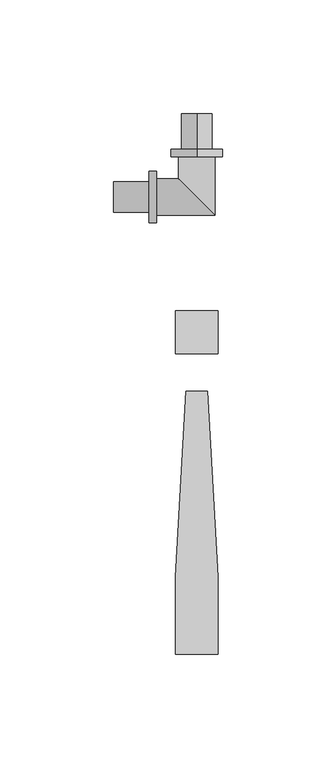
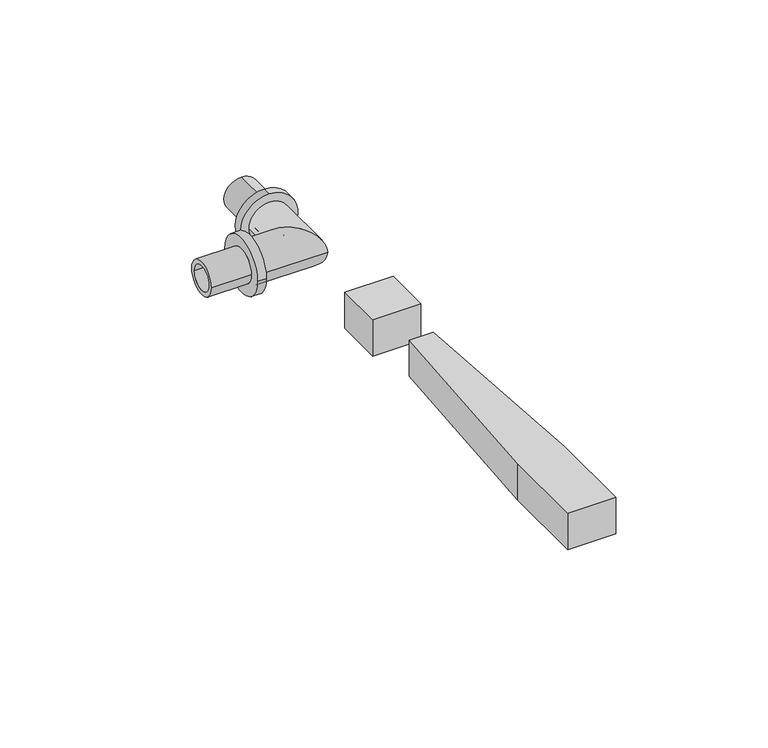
"""IFC4 building model written with IfcOpenShell, lengths in millimetres: pipe fitting geometry, RAUTITAN_Corner_LX : RTI LX/PX C DN."""

from ifc_helpers import new_model, si_unit, frame, origin, origin_with_axes, place, context, project, spatial, polyline, circle_curve, ellipse_curve, outline, extrude, source, transform, mapped, element, save
from ifc_brep_helpers import plane_surface, cylinder_surface, revolved_surface, advanced_brep


def pipe_fitting_bdbaf0cc(model_context):
    return source(origin(), model_context, "Body", "SolidModel", [
        extrude(outline(polyline([(4.7088895, -85.3166715), (9.4177791, -166.6553807), (9.4177791, -200.6844652), (-9.4177791, -200.6844652), (-9.4177791, -166.6553807), (-4.7088895, -85.3166715), (4.7088895, -85.3166715)])), origin_with_axes(), (0.0, 0.0, 1.0), 15.0),
        extrude(outline(polyline([(9.4177791, -50.0), (9.4177791, -68.8355582), (-9.4177791, -68.8355582), (-9.4177791, -50.0), (9.4177791, -50.0)])), origin_with_axes(), (0.0, 0.0, 1.0), 15.0),
        advanced_brep(
        [(0.0, 21.0, 11.25), (0.0, 21.0, -11.25), (0.0, 17.7, -11.25), (0.0, 17.7, 11.25), (0.0, 36.5, 6.75), (0.0, 36.5, -6.75), (0.0, 21.0, -6.75), (0.0, 21.0, 6.75), (0.0, 17.7, 4.95), (0.0, 17.7, -4.95), (0.0, 36.5, -4.95), (0.0, 36.5, 4.95)],
        [
            (0, 1, circle_curve(frame((0.0, 21.0, 0.0), z_axis=(0.0, -1.0, 0.0), x_axis=(0.0, 0.0, -1.0)), 11.25)),
            (1, 2),
            (2, 3, circle_curve(frame((0.0, 17.7, 0.0), z_axis=(0.0, 1.0, 0.0), x_axis=(0.0, 0.0, -1.0)), 11.25)),
            (3, 0),
            (4, 5, circle_curve(frame((0.0, 36.5, 0.0), z_axis=(0.0, -1.0, 0.0), x_axis=(0.0, 0.0, -1.0)), 6.75)),
            (5, 6),
            (6, 7, circle_curve(frame((0.0, 21.0, 0.0), z_axis=(0.0, 1.0, 0.0), x_axis=(0.0, 0.0, -1.0)), 6.75)),
            (7, 4),
            (8, 9, circle_curve(frame((0.0, 17.7, 0.0), z_axis=(0.0, -1.0, 0.0), x_axis=(0.0, 0.0, -1.0)), 4.95)),
            (9, 10),
            (10, 11, circle_curve(frame((0.0, 36.5, 0.0), z_axis=(0.0, 1.0, 0.0), x_axis=(0.0, 0.0, -1.0)), 4.95)),
            (11, 8),
            (1, 0, circle_curve(frame((0.0, 21.0, 0.0), z_axis=(0.0, -1.0, 0.0), x_axis=(0.0, 0.0, 1.0)), 11.25)),
            (3, 2, circle_curve(frame((0.0, 17.7, 0.0), z_axis=(0.0, 1.0, 0.0), x_axis=(0.0, 0.0, 1.0)), 11.25)),
            (6, 7, circle_curve(frame((0.0, 21.0, 0.0), z_axis=(0.0, -1.0, 0.0), x_axis=(0.0, 0.0, 1.0)), 6.75)),
            (5, 4, circle_curve(frame((0.0, 36.5, 0.0), z_axis=(0.0, -1.0, 0.0), x_axis=(0.0, 0.0, 1.0)), 6.75)),
            (10, 11, circle_curve(frame((0.0, 36.5, 0.0), z_axis=(0.0, -1.0, 0.0), x_axis=(0.0, 0.0, 1.0)), 4.95)),
            (9, 8, circle_curve(frame((0.0, 17.7, 0.0), z_axis=(0.0, -1.0, 0.0), x_axis=(0.0, 0.0, 1.0)), 4.95)),
        ],
        [
            cylinder_surface(frame((0.0, 17.7, 0.0), z_axis=(0.0, 1.0, 0.0), x_axis=(0.0, 0.0, -1.0)), 11.25),
            cylinder_surface(frame((0.0, 17.7, 0.0), z_axis=(0.0, 1.0, 0.0), x_axis=(0.0, 0.0, -1.0)), 6.75),
            revolved_surface(polyline([(0.0, 36.5, -4.95), (0.0, 17.7, -4.95)]), (0.0, 17.7, 0.0), (0.0, 1.0, 0.0)),
            cylinder_surface(frame((0.0, 17.7, 0.0), z_axis=(0.0, 1.0, 0.0), x_axis=(0.0, 0.0, 1.0)), 11.25),
            plane_surface(frame((0.0, 21.0, 0.0), z_axis=(0.0, 1.0, 0.0), x_axis=(0.0, 0.0, 1.0))),
            cylinder_surface(frame((0.0, 17.7, 0.0), z_axis=(0.0, 1.0, 0.0), x_axis=(0.0, 0.0, 1.0)), 6.75),
            plane_surface(frame((0.0, 36.5, 0.0), z_axis=(0.0, 1.0, 0.0), x_axis=(0.0, 0.0, 1.0))),
            revolved_surface(polyline([(0.0, 36.5, 4.95), (0.0, 17.7, 4.95)]), (0.0, 17.7, 0.0), (0.0, 1.0, 0.0)),
            plane_surface(frame((0.0, 17.7, 0.0), z_axis=(0.0, -1.0, 0.0), x_axis=(0.0, 0.0, 1.0))),
        ],
        [
            (0, [[1, 2, 3, 4]]),
            (1, [[5, 6, 7, 8]]),
            (2, [[9, 10, 11, 12]]),
            (3, [[13, -4, 14, -2]]),
            (4, [[-13, -1], [15, -7]]),
            (5, [[16, -8, -15, -6]]),
            (6, [[-16, -5], [17, -11]]),
            (7, [[18, -12, -17, -10]]),
            (8, [[-14, -3], [-18, -9]]),
        ],
    ),
        advanced_brep(
        [(-21.0, -11.25, 0.0), (-21.0, 11.25, 0.0), (-17.7, 11.25, 0.0), (-17.7, -11.25, 0.0), (-36.5, -6.75, 0.0), (-36.5, 6.75, 0.0), (-21.0, 6.75, 0.0), (-21.0, -6.75, 0.0), (-17.7, -4.95, 0.0), (-17.7, 4.95, 0.0), (-36.5, 4.95, 0.0), (-36.5, -4.95, 0.0)],
        [
            (0, 1, circle_curve(frame((-21.0, 0.0, 0.0), z_axis=(1.0, 0.0, 0.0), x_axis=(0.0, 1.0, 0.0)), 11.25)),
            (1, 2),
            (2, 3, circle_curve(frame((-17.7, 0.0, 0.0), z_axis=(-1.0, 0.0, 0.0), x_axis=(0.0, 1.0, 0.0)), 11.25)),
            (3, 0),
            (4, 5, circle_curve(frame((-36.5, 0.0, 0.0), z_axis=(1.0, 0.0, 0.0), x_axis=(0.0, 1.0, 0.0)), 6.75)),
            (5, 6),
            (6, 7, circle_curve(frame((-21.0, 0.0, 0.0), z_axis=(-1.0, 0.0, 0.0), x_axis=(0.0, 1.0, 0.0)), 6.75)),
            (7, 4),
            (8, 9, circle_curve(frame((-17.7, 0.0, 0.0), z_axis=(1.0, 0.0, 0.0), x_axis=(0.0, 1.0, 0.0)), 4.95)),
            (9, 10),
            (10, 11, circle_curve(frame((-36.5, 0.0, 0.0), z_axis=(-1.0, 0.0, 0.0), x_axis=(0.0, 1.0, 0.0)), 4.95)),
            (11, 8),
            (1, 0, circle_curve(frame((-21.0, 0.0, 0.0), z_axis=(1.0, 0.0, 0.0), x_axis=(0.0, -1.0, 0.0)), 11.25)),
            (3, 2, circle_curve(frame((-17.7, 0.0, 0.0), z_axis=(-1.0, 0.0, 0.0), x_axis=(0.0, -1.0, 0.0)), 11.25)),
            (6, 7, circle_curve(frame((-21.0, 0.0, 0.0), z_axis=(1.0, 0.0, 0.0), x_axis=(0.0, -1.0, 0.0)), 6.75)),
            (5, 4, circle_curve(frame((-36.5, 0.0, 0.0), z_axis=(1.0, 0.0, 0.0), x_axis=(0.0, -1.0, 0.0)), 6.75)),
            (10, 11, circle_curve(frame((-36.5, 0.0, 0.0), z_axis=(1.0, 0.0, 0.0), x_axis=(0.0, -1.0, 0.0)), 4.95)),
            (9, 8, circle_curve(frame((-17.7, 0.0, 0.0), z_axis=(1.0, 0.0, 0.0), x_axis=(0.0, -1.0, 0.0)), 4.95)),
        ],
        [
            cylinder_surface(frame((-17.7, 0.0, 0.0), z_axis=(-1.0, 0.0, 0.0), x_axis=(0.0, 1.0, 0.0)), 11.25),
            cylinder_surface(frame((-17.7, 0.0, 0.0), z_axis=(-1.0, 0.0, 0.0), x_axis=(0.0, 1.0, 0.0)), 6.75),
            revolved_surface(polyline([(-36.5, 4.95, 0.0), (-17.7, 4.95, 0.0)]), (-17.7, 0.0, 0.0), (-1.0, 0.0, 0.0)),
            cylinder_surface(frame((-17.7, 0.0, 0.0), z_axis=(-1.0, 0.0, 0.0), x_axis=(0.0, -1.0, 0.0)), 11.25),
            plane_surface(frame((-21.0, 0.0, 0.0), z_axis=(-1.0, 0.0, 0.0), x_axis=(0.0, -1.0, 0.0))),
            cylinder_surface(frame((-17.7, 0.0, 0.0), z_axis=(-1.0, 0.0, 0.0), x_axis=(0.0, -1.0, 0.0)), 6.75),
            plane_surface(frame((-36.5, 0.0, 0.0), z_axis=(-1.0, 0.0, 0.0), x_axis=(0.0, -1.0, 0.0))),
            revolved_surface(polyline([(-36.5, -4.95, 0.0), (-17.7, -4.95, 0.0)]), (-17.7, 0.0, 0.0), (-1.0, 0.0, 0.0)),
            plane_surface(frame((-17.7, 0.0, 0.0), z_axis=(1.0, 0.0, 0.0), x_axis=(0.0, -1.0, 0.0))),
        ],
        [
            (0, [[1, 2, 3, 4]]),
            (1, [[5, 6, 7, 8]]),
            (2, [[9, 10, 11, 12]]),
            (3, [[13, -4, 14, -2]]),
            (4, [[-13, -1], [15, -7]]),
            (5, [[16, -8, -15, -6]]),
            (6, [[-16, -5], [17, -11]]),
            (7, [[18, -12, -17, -10]]),
            (8, [[-14, -3], [-18, -9]]),
        ],
    ),
        advanced_brep(
        [(-17.7, -8.05, 0.0), (-17.7, 8.05, 0.0), (-17.7, -4.95, 0.0), (-17.7, 4.95, 0.0), (-4.95, 4.95, 0.0), (4.95, -4.95, 0.0), (8.05, 17.7, 0.0), (-8.05, 17.7, 0.0), (4.95, 17.7, 0.0), (-4.95, 17.7, 0.0), (8.05, -8.05, 0.0), (-8.05, 8.05, 0.0)],
        [
            (0, 1, circle_curve(frame((-17.7, 0.0, 0.0), z_axis=(-1.0, 0.0, 0.0), x_axis=(0.0, 1.0, 0.0)), 8.05)),
            (1, 0, circle_curve(frame((-17.7, 0.0, 0.0), z_axis=(-1.0, 0.0, 0.0), x_axis=(0.0, 1.0, 0.0)), 8.05)),
            (2, 3, circle_curve(frame((-17.7, 0.0, 0.0), z_axis=(1.0, 0.0, 0.0), x_axis=(0.0, 1.0, 0.0)), 4.95)),
            (3, 2, circle_curve(frame((-17.7, 0.0, 0.0), z_axis=(1.0, 0.0, 0.0), x_axis=(0.0, 1.0, 0.0)), 4.95)),
            (3, 4),
            (4, 5, ellipse_curve(frame((0.0, 0.0, 0.0), z_axis=(0.707106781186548, 0.7071067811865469, 0.0), x_axis=(0.7071067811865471, -0.7071067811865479, 0.0)), 7.0003571, 4.95)),
            (5, 2),
            (5, 4, ellipse_curve(frame((0.0, 0.0, 0.0), z_axis=(0.707106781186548, 0.7071067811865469, 0.0), x_axis=(0.7071067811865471, -0.7071067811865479, 0.0)), 7.0003571, 4.95)),
            (6, 7, circle_curve(frame((0.0, 17.7, 0.0), z_axis=(0.0, 1.0, 0.0), x_axis=(-1.0, 0.0, 0.0)), 8.05)),
            (7, 6, circle_curve(frame((0.0, 17.7, 0.0), z_axis=(0.0, 1.0, 0.0), x_axis=(-1.0, 0.0, 0.0)), 8.05)),
            (8, 9, circle_curve(frame((0.0, 17.7, 0.0), z_axis=(0.0, -1.0, 0.0), x_axis=(-1.0, 0.0, 0.0)), 4.95)),
            (9, 8, circle_curve(frame((0.0, 17.7, 0.0), z_axis=(0.0, -1.0, 0.0), x_axis=(-1.0, 0.0, 0.0)), 4.95)),
            (4, 9),
            (8, 5),
            (0, 10),
            (10, 11, ellipse_curve(frame((0.0, 0.0, 0.0), z_axis=(-0.707106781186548, -0.7071067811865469, 0.0), x_axis=(-0.7071067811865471, 0.7071067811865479, 0.0)), 11.3844192, 8.05)),
            (11, 1),
            (11, 10, ellipse_curve(frame((0.0, 0.0, 0.0), z_axis=(-0.707106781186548, -0.7071067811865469, 0.0), x_axis=(-0.7071067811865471, 0.7071067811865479, 0.0)), 11.3844192, 8.05)),
            (10, 6),
            (7, 11),
        ],
        [
            plane_surface(frame((-17.7, 0.0, 0.0), z_axis=(-1.0, 0.0, 0.0), x_axis=(0.0, 0.0, 1.0))),
            revolved_surface(polyline([(4.949999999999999, 4.95, 0.0), (-17.7, 4.95, 0.0)]), (-17.7, 0.0, 0.0), (1.0, 0.0, 0.0)),
            plane_surface(frame((0.0, 17.7, 0.0), z_axis=(0.0, 1.0, 0.0), x_axis=(0.0, 0.0, 1.0))),
            revolved_surface(polyline([(-4.95, 17.7, 0.0), (-4.95, -4.95, 0.0)]), (0.0, 0.0, 0.0), (0.0, 1.0, 0.0)),
            cylinder_surface(frame((-17.7, 0.0, 0.0), z_axis=(-1.0, 0.0, 0.0), x_axis=(0.0, 1.0, 0.0)), 8.05),
            cylinder_surface(frame((0.0, 0.0, 0.0), z_axis=(0.0, -1.0, 0.0), x_axis=(-1.0, 0.0, 0.0)), 8.05),
        ],
        [
            (0, [[1, 2], [3, 4]]),
            (1, [[-4, 5, 6, 7]]),
            (1, [[-3, -7, 8, -5]]),
            (2, [[9, 10], [11, 12]]),
            (3, [[-6, 13, -11, 14]]),
            (3, [[-8, -14, -12, -13]]),
            (4, [[-1, 15, 16, 17]]),
            (4, [[-2, -17, 18, -15]]),
            (5, [[-16, 19, -10, 20]]),
            (5, [[-18, -20, -9, -19]]),
        ],
    ),
    ])


if __name__ == "__main__":
    model = new_model("IFC4")
    model_context = context("Model", 3, world=origin())
    ifc_project = project(units=[si_unit("LENGTHUNIT", "METRE", prefix="MILLI")], contexts=[model_context])
    site = spatial("IfcSite", under=ifc_project)
    building = spatial("IfcBuilding", under=site)
    placement = place(None, origin())
    pipe_fitting_shape = pipe_fitting_bdbaf0cc(model_context)
    element("IfcPipeFitting", 1, ObjectType="RAUTITAN_Corner_LX : RTI LX/PX C DN", at=placement, inside=building, context=model_context, shape_type="MappedRepresentation", body=[
        mapped(pipe_fitting_shape, transform((0.0, 0.0, 0.0), x_axis=(1.0, 0.0, 0.0), y_axis=(0.0, 1.0, 0.0), z_axis=(0.0, 0.0, 1.0))),
    ])
    save(model, "model.ifc")
